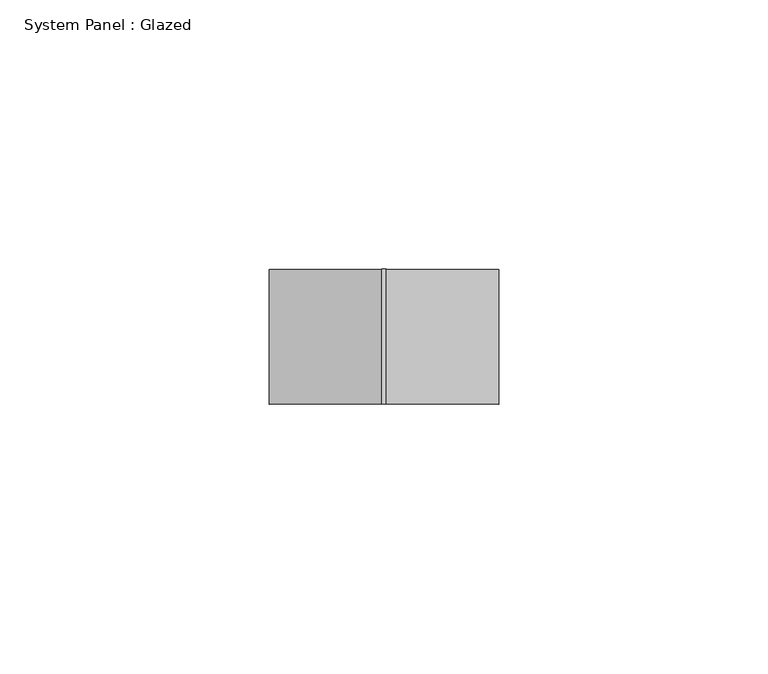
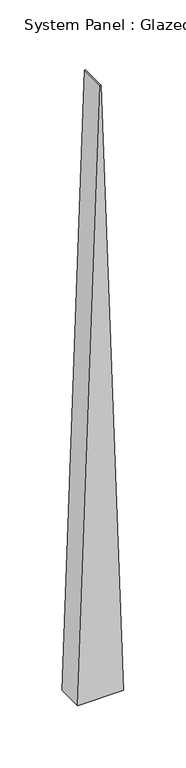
"""IFC4 building model written with IfcOpenShell, lengths in millimetres: plate geometry, System Panel : Glazed."""

import ifcopenshell
import ifcopenshell.guid

model = None  # the IFC model being written
_history = None  # IfcOwnerHistory: only IFC2X3 demands one
_inside = {}  # id of a spatial element -> (the spatial element, [elements in it])
_under = {}  # id of a project, library or spatial element -> (it, [spatial elements below it])
_declared = {}  # id of a project -> (the project, [libraries it declares])
_typed = {}  # id of a type object -> (the type object, [elements of that type])
_made_of = {}  # id of a material, layer set ... -> (it, [elements and type objects made of it])


def new_model(schema):
    """Start an empty IFC model of exactly this schema.

    Asked for "IFC4X3", IfcOpenShell would pick the latest addendum, in which some entities
    have other attributes; the version numbers below select the first issue.
    IFC2X3 requires an IfcOwnerHistory on every rooted entity: one is made here for all.
    """
    global model, _history
    if schema == "IFC4X3":
        model = ifcopenshell.file(schema_version=(4, 3, 0, 0))
    else:
        model = ifcopenshell.file(schema=schema)
    _inside.clear()
    _under.clear()
    _declared.clear()
    _typed.clear()
    _made_of.clear()
    _history = None
    if model.schema == "IFC2X3":
        org = make("IfcOrganization", Name="unknown")
        user = make(
            "IfcPersonAndOrganization",
            ThePerson=make("IfcPerson", FamilyName="unknown"),
            TheOrganization=org,
        )
        app = make(
            "IfcApplication",
            ApplicationDeveloper=org,
            Version="unknown",
            ApplicationFullName="unknown",
            ApplicationIdentifier="unknown",
        )
        _history = make(
            "IfcOwnerHistory",
            OwningUser=user,
            OwningApplication=app,
            ChangeAction="ADDED",
            CreationDate=0,
        )
    return model


def make(cls, **values):
    """One entity of the class cls with the attributes given. An attribute that is None is left unset."""
    return model.create_entity(
        cls, **{name: value for name, value in values.items() if value is not None}
    )


def rooted(cls, **values):
    """An entity with a GlobalId (a new one), such as an element, a storey or a relation."""
    return make(cls, GlobalId=ifcopenshell.guid.new(), OwnerHistory=_history, **values)


def si_unit(unit_type, name, prefix=None):
    """IfcSIUnit, for example si_unit("LENGTHUNIT", "METRE", prefix="MILLI")."""
    return make("IfcSIUnit", UnitType=unit_type, Prefix=prefix, Name=name)


def assignment(units):
    """IfcUnitAssignment: the units of a project."""
    return None if units is None else make("IfcUnitAssignment", Units=units)


def point(xyz):
    """IfcCartesianPoint."""
    return None if xyz is None else make("IfcCartesianPoint", Coordinates=xyz)


def direction(xyz):
    """IfcDirection."""
    return None if xyz is None else make("IfcDirection", DirectionRatios=xyz)


def frame(location, z_axis=None, x_axis=None):
    """IfcAxis2Placement3D, a coordinate frame: its origin and axes. An axis left out is left unset."""
    return make(
        "IfcAxis2Placement3D",
        Location=point(location),
        Axis=direction(z_axis),
        RefDirection=direction(x_axis),
    )


def origin():
    """The frame at (0, 0, 0) with its axes left unset."""
    return frame((0.0, 0.0, 0.0))


def place(relative_to, where):
    """IfcLocalPlacement: puts the frame where relative to a parent placement (None: the world)."""
    return make(
        "IfcLocalPlacement", PlacementRelTo=relative_to, RelativePlacement=where
    )


def context(
    kind, dimensions, precision=None, world=None, true_north=None, identifier=None
):
    """IfcGeometricRepresentationContext, for example the 3D "Model" context."""
    return make(
        "IfcGeometricRepresentationContext",
        ContextIdentifier=identifier,
        ContextType=kind,
        CoordinateSpaceDimension=dimensions,
        Precision=precision,
        WorldCoordinateSystem=world,
        TrueNorth=true_north,
    )


def project(units=None, contexts=None):
    """IfcProject with its units and contexts."""
    return rooted(
        "IfcProject",
        Name="project",
        RepresentationContexts=contexts,
        UnitsInContext=assignment(units),
    )


def spatial(cls, under=None, at=None, **own):
    """A site, building, storey or space (cls), placed at a placement, below another one or the project."""
    s = rooted(cls, ObjectPlacement=at, **own)
    if under is not None:
        _under.setdefault(under.id(), (under, []))[1].append(s)
    return s


def polyline(points):
    """IfcPolyline through the points."""
    return make("IfcPolyline", Points=[point(p) for p in points])


def outline(outer, holes=None, kind="AREA"):
    """IfcArbitraryClosedProfileDef: a profile drawn as a closed curve; with holes, ...WithVoids."""
    if holes is None:
        return make("IfcArbitraryClosedProfileDef", ProfileType=kind, OuterCurve=outer)
    return make(
        "IfcArbitraryProfileDefWithVoids",
        ProfileType=kind,
        OuterCurve=outer,
        InnerCurves=holes,
    )


def extrude(swept, where, along, depth):
    """IfcExtrudedAreaSolid: the profile swept, set in the frame where, extruded along a direction by depth."""
    return make(
        "IfcExtrudedAreaSolid",
        SweptArea=swept,
        Position=where,
        ExtrudedDirection=direction(along),
        Depth=depth,
    )


def shape(context_of_items, identifier, shape_type, items):
    """IfcShapeRepresentation: the items that make up one representation, for example the "Body"."""
    return make(
        "IfcShapeRepresentation",
        ContextOfItems=context_of_items,
        RepresentationIdentifier=identifier,
        RepresentationType=shape_type,
        Items=items,
    )


def source(mapping_origin, context_of_items, identifier, shape_type, items):
    """IfcRepresentationMap: a shape defined once, which mapped items show again and again."""
    return make(
        "IfcRepresentationMap",
        MappingOrigin=mapping_origin,
        MappedRepresentation=shape(context_of_items, identifier, shape_type, items),
    )


def transform(
    local_origin,
    x_axis=None,
    y_axis=None,
    z_axis=None,
    scale=None,
    scale2=None,
    scale3=None,
    uniform=True,
):
    """IfcCartesianTransformationOperator3D, or its non-uniform kind. x_axis, y_axis, z_axis: its Axis1, 2, 3."""
    if uniform:
        return make(
            "IfcCartesianTransformationOperator3D",
            Axis1=direction(x_axis),
            Axis2=direction(y_axis),
            LocalOrigin=point(local_origin),
            Scale=scale,
            Axis3=direction(z_axis),
        )
    return make(
        "IfcCartesianTransformationOperator3DnonUniform",
        Axis1=direction(x_axis),
        Axis2=direction(y_axis),
        LocalOrigin=point(local_origin),
        Scale=scale,
        Axis3=direction(z_axis),
        Scale2=scale2,
        Scale3=scale3,
    )


def mapped(mapping_source, mapping_target):
    """IfcMappedItem: shows the shape of a source again, moved by a transform."""
    return make(
        "IfcMappedItem", MappingSource=mapping_source, MappingTarget=mapping_target
    )


def made_of(thing, what):
    """Note that an element or type object is made of a material, layer set ...; save() writes the relation."""
    if what is not None:
        _made_of.setdefault(what.id(), (what, []))[1].append(thing)
    return thing


def element(
    cls,
    number,
    at=None,
    inside=None,
    cuts=None,
    type_object=None,
    material=None,
    context=None,
    identifier="Body",
    shape_type=None,
    held_by="IfcProductDefinitionShape",
    body=None,
    shapes=None,
    **own,
):
    """One element of the class cls, such as IfcWall. Its Tag is "e" and its number.

    at: its placement. inside: the storey or other place that contains it. cuts: it is an
    opening in that element (IfcRelVoidsElement). A single representation is given by context,
    identifier, shape_type and body (its items); several are given by shapes. held_by: the class
    of the entity that holds the representations. save() writes the other relations.
    """
    e = rooted(cls, Tag="e%d" % number, ObjectPlacement=at, **own)
    if body is not None:
        shapes = [shape(context, identifier, shape_type, body)]
    if shapes is not None:
        e.Representation = make(held_by, Representations=shapes)
    if inside is not None:
        _inside.setdefault(inside.id(), (inside, []))[1].append(e)
    if cuts is not None:
        rooted(
            "IfcRelVoidsElement", RelatingBuildingElement=cuts, RelatedOpeningElement=e
        )
    if type_object is not None:
        _typed.setdefault(type_object.id(), (type_object, []))[1].append(e)
    return made_of(e, material)


def aggregate(whole, parts):
    """IfcRelAggregates: a whole, such as a stair, and the parts it consists of."""
    return rooted("IfcRelAggregates", RelatingObject=whole, RelatedObjects=parts)


def save(model, path):
    """Write the relations noted so far, then the file.

    IfcRelAggregates (storeys below a building ...), IfcRelContainedInSpatialStructure (elements
    in a storey), IfcRelDefinesByType, IfcRelAssociatesMaterial and IfcRelDeclares: one each for
    every whole, place, type object, material and project.
    """
    for whole, parts in _under.values():
        aggregate(whole, parts)
    for where, things in _inside.values():
        rooted(
            "IfcRelContainedInSpatialStructure",
            RelatedElements=things,
            RelatingStructure=where,
        )
    for kind, things in _typed.values():
        rooted("IfcRelDefinesByType", RelatedObjects=things, RelatingType=kind)
    for what, things in _made_of.values():
        rooted("IfcRelAssociatesMaterial", RelatedObjects=things, RelatingMaterial=what)
    for by, libraries in _declared.values():
        rooted("IfcRelDeclares", RelatingContext=by, RelatedDefinitions=libraries)
    model.write(path)


def system_panel_glazed_4cf14482(model_context):
    return source(origin(), model_context, "Body", "SweptSolid", [
        extrude(outline(polyline([(0.0, -21.2605356), (0.0, 21.2605356), (599.6382256, 0.4279076), (599.6382256, -0.4279076), (0.0, -21.2605356)])), frame((0.0, 24.5, 0.0), z_axis=(0.0, 1.0, 0.0), x_axis=(0.0, 0.0, 1.0)), (0.0, 0.0, 1.0), 25.0),
    ])


if __name__ == "__main__":
    model = new_model("IFC4")
    model_context = context("Model", 3, world=origin())
    ifc_project = project(units=[si_unit("LENGTHUNIT", "METRE", prefix="MILLI")], contexts=[model_context])
    site = spatial("IfcSite", under=ifc_project)
    building = spatial("IfcBuilding", under=site)
    placement = place(None, origin())
    system_panel_glazed_shape = system_panel_glazed_4cf14482(model_context)
    element("IfcPlate", 1, ObjectType="System Panel : Glazed", at=placement, inside=building, context=model_context, shape_type="MappedRepresentation", body=[
        mapped(system_panel_glazed_shape, transform((0.0, 0.0, 0.0), x_axis=(1.0, 0.0, 0.0), y_axis=(0.0, 1.0, 0.0), z_axis=(0.0, 0.0, 1.0))),
    ])
    save(model, "model.ifc")
